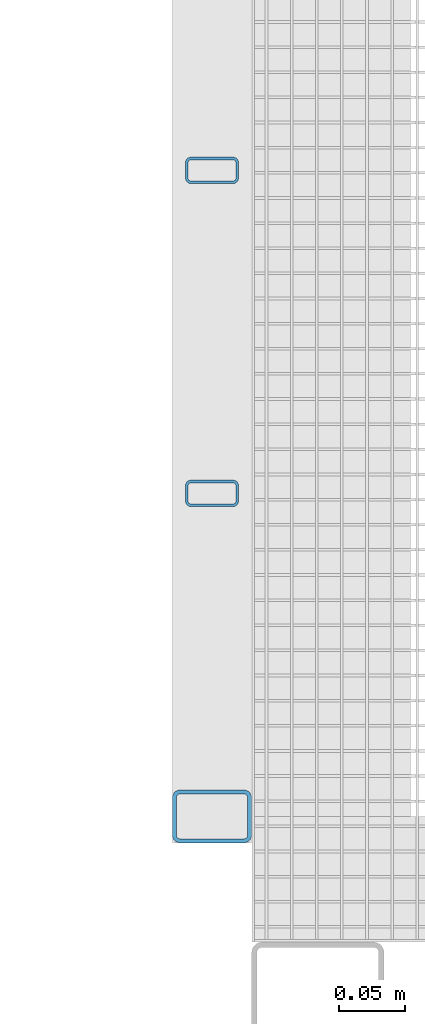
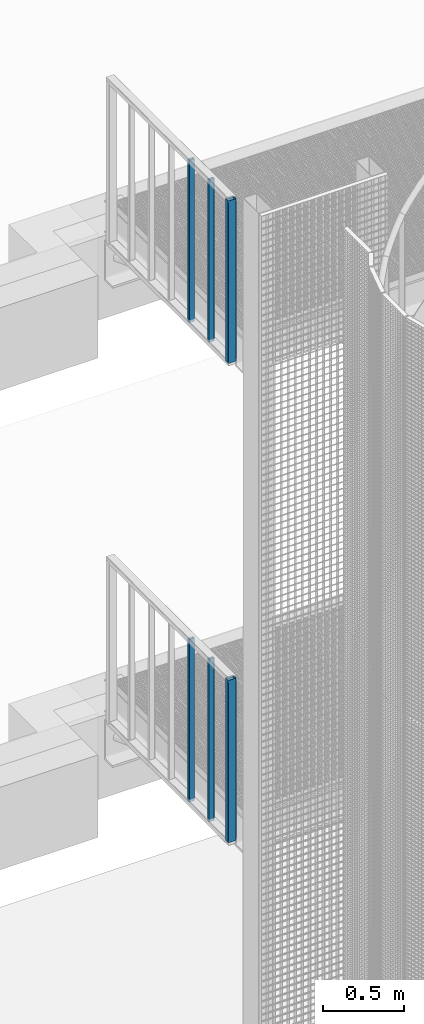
# One storey, part 53 of 1183: 6 columns, 6 elements without a shape of their own.
"""IFC2X3 building model written with IfcOpenShell, lengths in millimetres."""

from ifc_helpers import new_model, si_unit, frame, origin_with_axes, origin_2d_with_axis, place, context, subcontext, project, spatial, hollow_rectangle, extrude, material, type_object, element, aggregate, save


model = new_model("IFC2X3")

# Units and contexts
model_context = context("Model", 3, precision=1e-05, world=origin_with_axes())
body_context = subcontext(model_context, "Body", "Model", "MODEL_VIEW")
ifc_project = project(units=[si_unit("LENGTHUNIT", "METRE", prefix="MILLI"), si_unit("AREAUNIT", "SQUARE_METRE"), si_unit("VOLUMEUNIT", "CUBIC_METRE"), si_unit("MASSUNIT", "GRAM", prefix="KILO"), si_unit("TIMEUNIT", "SECOND"), si_unit("PLANEANGLEUNIT", "RADIAN"), si_unit("SOLIDANGLEUNIT", "STERADIAN"), si_unit("THERMODYNAMICTEMPERATUREUNIT", "DEGREE_CELSIUS"), si_unit("LUMINOUSINTENSITYUNIT", "LUMEN")], contexts=[model_context])

# Site, building, storey
site_placement = place(None, origin_with_axes())
site = spatial("IfcSite", under=ifc_project, at=site_placement, Name="Undefined", CompositionType="ELEMENT")
building_placement = place(site_placement, origin_with_axes())
building = spatial("IfcBuilding", under=site, at=building_placement, Name="Undefined", CompositionType="ELEMENT")
storey_placement = place(building_placement, origin_with_axes())
storey = spatial("IfcBuildingStorey", under=building, at=storey_placement, Name="Undefined", CompositionType="ELEMENT", Elevation=0.0)

# Assembly, column
assembly_1_placement = place(storey_placement, origin_with_axes())
assembly_1 = element("IfcElementAssembly", 1, at=assembly_1_placement, inside=storey, Name="STANCHION", AssemblyPlace="NOTDEFINED", PredefinedType="NOTDEFINED")
ifc_material = material(Name="Undefined/FE510D")
column_type_1 = type_object("IfcColumnType", Name="TUBE-R-40*20*2", PredefinedType="NOTDEFINED")
column_1_placement = place(assembly_1_placement, frame((20019.9317958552, 1683.34979617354, 17020.0), z_axis=(0.0, 0.0, 1.0), x_axis=(-0.999999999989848, 4.50600000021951e-06, 0.0)))
column_1 = element("IfcColumn", 2, at=column_1_placement, type_object=column_type_1, material=ifc_material, Name="STANCHION", context=body_context, shape_type="SweptSolid", body=[
    extrude(hollow_rectangle(XDim=20.0, YDim=40.0, WallThickness=2.0, InnerFilletRadius=2.0, OuterFilletRadius=4.0, at=origin_2d_with_axis()), frame((0.0, 0.0, 1219.99999999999), z_axis=(0.0, 0.0, -1.0), x_axis=(0.0, 1.0, 0.0)), (0.0, 0.0, 1.0), 1220.0),
])
aggregate(assembly_1, [column_1])

assembly_2_placement = place(storey_placement, origin_with_axes())
assembly_2 = element("IfcElementAssembly", 3, at=assembly_2_placement, inside=storey, Name="STANCHION", AssemblyPlace="NOTDEFINED", PredefinedType="NOTDEFINED")
column_2_placement = place(assembly_2_placement, frame((20019.9306956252, 1439.17979617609, 17020.0), z_axis=(0.0, 0.0, 1.0), x_axis=(-0.999999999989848, 4.50600000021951e-06, 0.0)))
column_2 = element("IfcColumn", 4, at=column_2_placement, type_object=column_type_1, material=ifc_material, Name="STANCHION", context=body_context, shape_type="SweptSolid", body=[
    extrude(hollow_rectangle(XDim=20.0, YDim=40.0, WallThickness=2.0, InnerFilletRadius=2.0, OuterFilletRadius=4.0, at=origin_2d_with_axis()), frame((0.0, 0.0, 1219.99999999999), z_axis=(0.0, 0.0, -1.0), x_axis=(0.0, 1.0, 0.0)), (0.0, 0.0, 1.0), 1220.0),
])
aggregate(assembly_2, [column_2])

assembly_3_placement = place(storey_placement, origin_with_axes())
assembly_3 = element("IfcElementAssembly", 5, at=assembly_3_placement, inside=storey, Name="STANCHION", AssemblyPlace="NOTDEFINED", PredefinedType="NOTDEFINED")
column_3_placement = place(assembly_3_placement, frame((20019.9317958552, 1683.34979617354, 13420.0), z_axis=(0.0, 0.0, 1.0), x_axis=(-0.999999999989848, 4.50600000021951e-06, 0.0)))
column_3 = element("IfcColumn", 6, at=column_3_placement, type_object=column_type_1, material=ifc_material, Name="STANCHION", context=body_context, shape_type="SweptSolid", body=[
    extrude(hollow_rectangle(XDim=20.0, YDim=40.0, WallThickness=2.0, InnerFilletRadius=2.0, OuterFilletRadius=4.0, at=origin_2d_with_axis()), frame((0.0, 0.0, 1219.99999999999), z_axis=(0.0, 0.0, -1.0), x_axis=(0.0, 1.0, 0.0)), (0.0, 0.0, 1.0), 1220.0),
])
aggregate(assembly_3, [column_3])

assembly_4_placement = place(storey_placement, origin_with_axes())
assembly_4 = element("IfcElementAssembly", 7, at=assembly_4_placement, inside=storey, Name="STANCHION", AssemblyPlace="NOTDEFINED", PredefinedType="NOTDEFINED")
column_4_placement = place(assembly_4_placement, frame((20019.9306956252, 1439.17979617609, 13420.0), z_axis=(0.0, 0.0, 1.0), x_axis=(-0.999999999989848, 4.50600000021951e-06, 0.0)))
column_4 = element("IfcColumn", 8, at=column_4_placement, type_object=column_type_1, material=ifc_material, Name="STANCHION", context=body_context, shape_type="SweptSolid", body=[
    extrude(hollow_rectangle(XDim=20.0, YDim=40.0, WallThickness=2.0, InnerFilletRadius=2.0, OuterFilletRadius=4.0, at=origin_2d_with_axis()), frame((0.0, 0.0, 1219.99999999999), z_axis=(0.0, 0.0, -1.0), x_axis=(0.0, 1.0, 0.0)), (0.0, 0.0, 1.0), 1220.0),
])
aggregate(assembly_4, [column_4])

assembly_5_placement = place(storey_placement, origin_with_axes())
assembly_5 = element("IfcElementAssembly", 9, at=assembly_5_placement, inside=storey, Name="STANCHION", AssemblyPlace="NOTDEFINED", PredefinedType="NOTDEFINED")
column_type_2 = type_object("IfcColumnType", Name="TUBE-R-60*40*3", PredefinedType="NOTDEFINED")
column_5_placement = place(assembly_5_placement, frame((20019.9295654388, 1195.01007484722, 17020.0), z_axis=(0.0, 0.0, 1.0), x_axis=(-0.999999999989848, 4.50600000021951e-06, 0.0)))
column_5 = element("IfcColumn", 10, at=column_5_placement, type_object=column_type_2, material=ifc_material, Name="STANCHION", context=body_context, shape_type="SweptSolid", body=[
    extrude(hollow_rectangle(XDim=40.0, YDim=60.0, WallThickness=3.0, InnerFilletRadius=3.0, OuterFilletRadius=6.0, at=origin_2d_with_axis()), frame((0.0, 0.0, 1219.99999999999), z_axis=(0.0, 0.0, -1.0), x_axis=(0.0, 1.0, 0.0)), (0.0, 0.0, 1.0), 1220.0),
])
aggregate(assembly_5, [column_5])

assembly_6_placement = place(storey_placement, origin_with_axes())
assembly_6 = element("IfcElementAssembly", 11, at=assembly_6_placement, inside=storey, Name="STANCHION", AssemblyPlace="NOTDEFINED", PredefinedType="NOTDEFINED")
column_6_placement = place(assembly_6_placement, frame((20019.9295654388, 1195.01007484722, 13420.0), z_axis=(0.0, 0.0, 1.0), x_axis=(-0.999999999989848, 4.50600000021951e-06, 0.0)))
column_6 = element("IfcColumn", 12, at=column_6_placement, type_object=column_type_2, material=ifc_material, Name="STANCHION", context=body_context, shape_type="SweptSolid", body=[
    extrude(hollow_rectangle(XDim=40.0, YDim=60.0, WallThickness=3.0, InnerFilletRadius=3.0, OuterFilletRadius=6.0, at=origin_2d_with_axis()), frame((0.0, 0.0, 1219.99999999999), z_axis=(0.0, 0.0, -1.0), x_axis=(0.0, 1.0, 0.0)), (0.0, 0.0, 1.0), 1220.0),
])
aggregate(assembly_6, [column_6])

save(model, "model.ifc")
